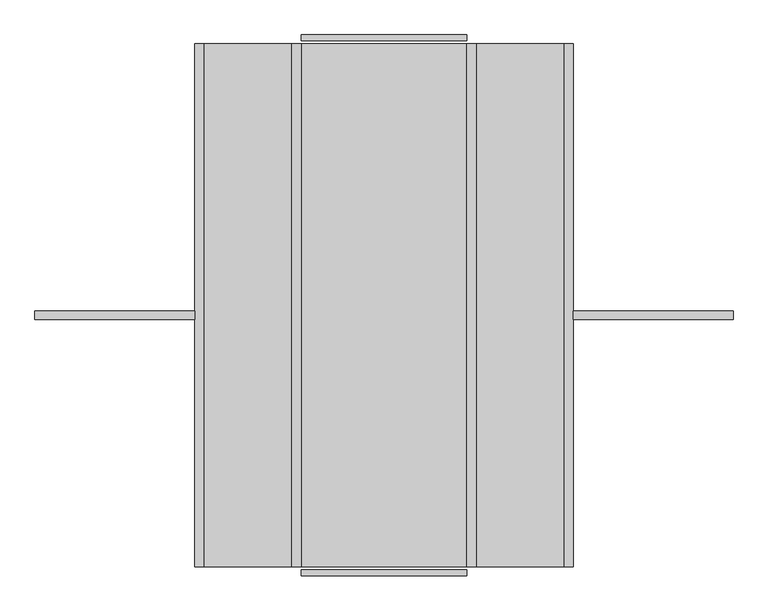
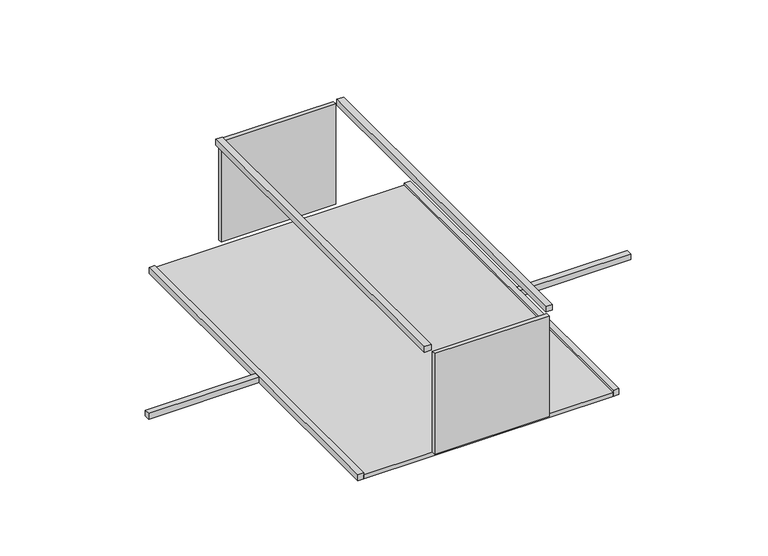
"""IFC4 building model written with IfcOpenShell, lengths in millimetres: proxy geometry, EMC_VEN_CLEVA 2.0_Right_V2 : CLEVA 4000 2.0 Right."""

from ifc_helpers import new_model, si_unit, frame, origin, origin_with_axes, place, context, project, spatial, polyline, outline, extrude, source, transform, mapped, element, save


def mechanical_equipment_b7612c93(model_context):
    return source(origin(), model_context, "Body", "SweptSolid", [
        extrude(outline(polyline([(289.0, -925.0), (289.0, -945.0), (-289.0, -945.0), (-289.0, -925.0), (289.0, -925.0)])), frame((0.0, 0.0, 30.5), z_axis=(0.0, 0.0, 1.0), x_axis=(1.0, 0.0, 0.0)), (0.0, 0.0, 1.0), 538.0),
        extrude(outline(polyline([(289.0, 945.0), (289.0, 925.0), (-289.0, 925.0), (-289.0, 945.0), (289.0, 945.0)])), frame((0.0, 0.0, 30.5), z_axis=(0.0, 0.0, 1.0), x_axis=(1.0, 0.0, 0.0)), (0.0, 0.0, 1.0), 538.0),
        extrude(outline(polyline([(630.0, -914.0), (-630.0, -914.0), (-630.0, 914.0), (630.0, 914.0), (630.0, -914.0)])), origin_with_axes(), (0.0, 0.0, 1.0), 20.0),
        extrude(outline(polyline([(-660.0, -50.0), (-1219.0, -50.0), (-1219.0, -20.0), (-660.0, -20.0), (-660.0, -50.0)])), origin_with_axes(), (0.0, 0.0, 1.0), 30.5),
        extrude(outline(polyline([(660.0, -20.0), (1219.0, -20.0), (1219.0, -50.0), (660.0, -50.0), (660.0, -20.0)])), origin_with_axes(), (0.0, 0.0, 1.0), 30.5),
        extrude(outline(polyline([(-660.0, 914.0), (-630.0, 914.0), (-630.0, -914.0), (-660.0, -914.0), (-660.0, 914.0)])), origin_with_axes(), (0.0, 0.0, 1.0), 30.5),
        extrude(outline(polyline([(660.0, 914.0), (660.0, -914.0), (630.0, -914.0), (630.0, 914.0), (660.0, 914.0)])), origin_with_axes(), (0.0, 0.0, 1.0), 30.5),
        extrude(outline(polyline([(-289.0, 914.0), (-289.0, -914.0), (-323.0, -914.0), (-323.0, 914.0), (-289.0, 914.0)])), frame((0.0, 0.0, 568.5), z_axis=(0.0, 0.0, 1.0), x_axis=(1.0, 0.0, 0.0)), (0.0, 0.0, 1.0), 30.5),
        extrude(outline(polyline([(323.0, 914.0), (323.0, -914.0), (289.0, -914.0), (289.0, 914.0), (323.0, 914.0)])), frame((0.0, 0.0, 568.5), z_axis=(0.0, 0.0, 1.0), x_axis=(1.0, 0.0, 0.0)), (0.0, 0.0, 1.0), 30.5),
    ])


if __name__ == "__main__":
    model = new_model("IFC4")
    model_context = context("Model", 3, world=origin())
    ifc_project = project(units=[si_unit("LENGTHUNIT", "METRE", prefix="MILLI")], contexts=[model_context])
    site = spatial("IfcSite", under=ifc_project)
    building = spatial("IfcBuilding", under=site)
    placement = place(None, origin())
    mechanical_equipment_shape = mechanical_equipment_b7612c93(model_context)
    element("IfcBuildingElementProxy", 1, Name="EMC_VEN_CLEVA 2.0_Right_V2 : CLEVA 4000 2.0 Right", ObjectType="EMC_VEN_CLEVA 2.0_Right_V2 : CLEVA 4000 2.0 Right", at=placement, inside=building, context=model_context, shape_type="MappedRepresentation", body=[
        mapped(mechanical_equipment_shape, transform((0.0, 0.0, 0.0), x_axis=(1.0, 0.0, 0.0), y_axis=(0.0, 1.0, 0.0), z_axis=(0.0, 0.0, 1.0))),
    ])
    save(model, "model.ifc")
